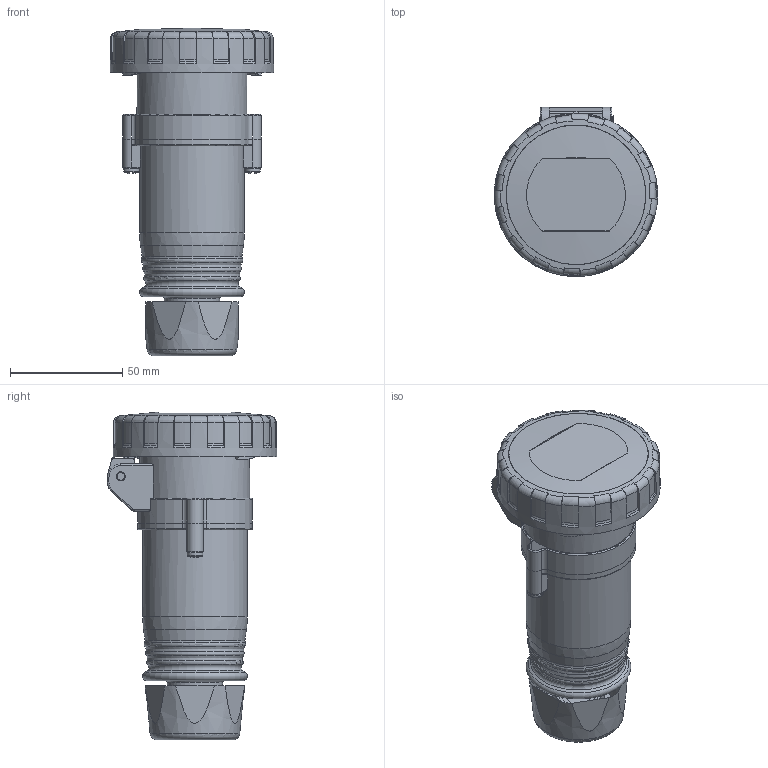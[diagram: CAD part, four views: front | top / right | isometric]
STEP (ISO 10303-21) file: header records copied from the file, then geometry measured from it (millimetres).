
FILE_DESCRIPTION(/* description */ (''),/* implementation_level */ '2;1');
FILE_NAME(/* name */ '4006075.stp',/* time_stamp */ '2017-04-20T20:05:58+02:00',/* author */ (''),/* organization */ (''),/* preprocessor_version */ 'ST-DEVELOPER v16',/* originating_system */ 'SIEMENS PLM Software NX 11.0',/* authorisation */ '');
FILE_SCHEMA (('AUTOMOTIVE_DESIGN { 1 0 10303 214 3 1 1 1 }'));
Length unit declared in the file: millimetre
Products named in the file (1): 4006075_LINKEDEXT_jt
Bounding box: 72.71 x 75.38 x 145.89 mm (x, y, z)
Surface area: 48167.2 mm2 (no closed solid volume)
Topology: 0 solids, 39 shells, 376 faces, 1264 edges, 892 vertices
Faces by surface type: plane 124, torus 117, cylinder 78, cone 40, bspline 16, sphere 1
Full cylindrical faces by diameter (mm): 1 x2, 4 x1, 7 x2, 23 x1, 24.6 x1, 46.6 x1, 49 x1, 67 x1
Entity records: 18037 total; most frequent: CARTESIAN_POINT 4871, DIRECTION 2301, ORIENTED_EDGE 1873, EDGE_CURVE 1180, AXIS2_PLACEMENT_3D 918, VERTEX_POINT 867, CIRCLE 525, LINE 465
